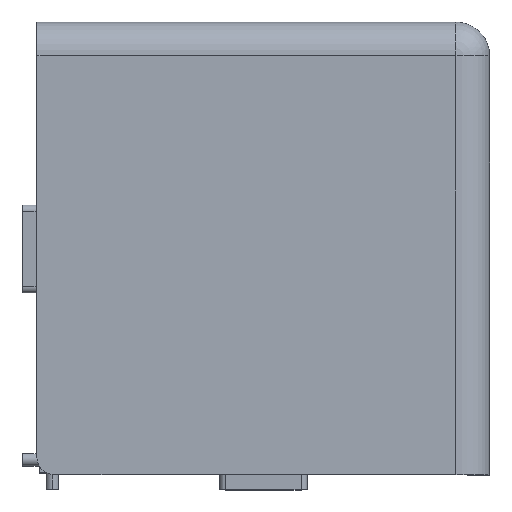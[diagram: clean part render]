
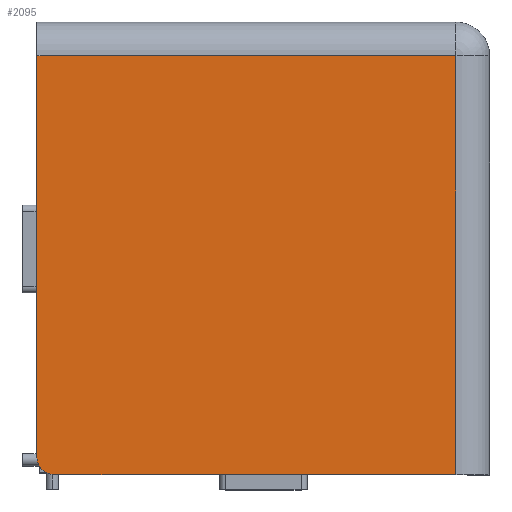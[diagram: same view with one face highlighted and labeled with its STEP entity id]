
A CAD part, top view. The second image highlights one B-rep face of the part: STEP entity #2095.
In plain terms, the highlighted planar face has unit normal (0, 0, 1) as drawn and (0, 1, 0) by its records, which use the part's own axes.
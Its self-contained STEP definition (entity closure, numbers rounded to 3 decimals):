
#37 = ORIENTED_EDGE ( 'NONE', *, *, #810, .T. ) ;
#49 = CARTESIAN_POINT ( 'NONE',  ( 3., 40.2, 0. ) ) ;
#218 = VERTEX_POINT ( 'NONE', #10406 ) ;
#601 = ORIENTED_EDGE ( 'NONE', *, *, #3761, .T. ) ;
#664 = CIRCLE ( 'NONE', #4192, 1.5 ) ;
#751 = EDGE_LOOP ( 'NONE', ( #8826, #601, #4396, #37, #6130 ) ) ;
#810 = EDGE_CURVE ( 'NONE', #218, #4380, #10902, .T. ) ;
#1133 = CARTESIAN_POINT ( 'NONE',  ( 3., 40.2, -37.2 ) ) ;
#1829 = VERTEX_POINT ( 'NONE', #6396 ) ;
#2077 = PLANE ( 'NONE',  #2864 ) ;
#2095 = ADVANCED_FACE ( 'NONE', ( #6660 ), #2077, .F. ) ;
#2129 = CARTESIAN_POINT ( 'NONE',  ( 40.2, 40.2, -40.2 ) ) ;
#2862 = CARTESIAN_POINT ( 'NONE',  ( 0., 40.2, -37.2 ) ) ;
#2864 = AXIS2_PLACEMENT_3D ( 'NONE', #7524, #4806, #9040 ) ;
#3046 = VERTEX_POINT ( 'NONE', #49 ) ;
#3460 = LINE ( 'NONE', #4451, #11146 ) ;
#3665 = DIRECTION ( 'NONE',  ( -1., 0., 0. ) ) ;
#3677 = EDGE_CURVE ( 'NONE', #1829, #218, #5625, .T. ) ;
#3761 = EDGE_CURVE ( 'NONE', #8027, #1829, #664, .T. ) ;
#4192 = AXIS2_PLACEMENT_3D ( 'NONE', #8286, #9205, #8172 ) ;
#4380 = VERTEX_POINT ( 'NONE', #1133 ) ;
#4396 = ORIENTED_EDGE ( 'NONE', *, *, #3677, .T. ) ;
#4451 = CARTESIAN_POINT ( 'NONE',  ( 3., 40.2, 0. ) ) ;
#4806 = DIRECTION ( 'NONE',  ( 0., -1., 0. ) ) ;
#5160 = EDGE_CURVE ( 'NONE', #4380, #3046, #3460, .T. ) ;
#5469 = CARTESIAN_POINT ( 'NONE',  ( 2., 40.2, 0. ) ) ;
#5625 = LINE ( 'NONE', #2129, #7914 ) ;
#6130 = ORIENTED_EDGE ( 'NONE', *, *, #5160, .T. ) ;
#6370 = VECTOR ( 'NONE', #7371, 1000. ) ;
#6396 = CARTESIAN_POINT ( 'NONE',  ( 40.2, 40.2, -1.5 ) ) ;
#6660 = FACE_OUTER_BOUND ( 'NONE', #751, .T. ) ;
#7371 = DIRECTION ( 'NONE',  ( 1., 0., 0. ) ) ;
#7524 = CARTESIAN_POINT ( 'NONE',  ( 0., 40.2, 0. ) ) ;
#7914 = VECTOR ( 'NONE', #10018, 1000. ) ;
#7934 = DIRECTION ( 'NONE',  ( 0., 0., 1. ) ) ;
#8027 = VERTEX_POINT ( 'NONE', #9416 ) ;
#8172 = DIRECTION ( 'NONE',  ( 0., 0., -1. ) ) ;
#8286 = CARTESIAN_POINT ( 'NONE',  ( 38.7, 40.2, -1.5 ) ) ;
#8810 = VECTOR ( 'NONE', #3665, 1000. ) ;
#8826 = ORIENTED_EDGE ( 'NONE', *, *, #9406, .T. ) ;
#9040 = DIRECTION ( 'NONE',  ( 0., 0., -1. ) ) ;
#9205 = DIRECTION ( 'NONE',  ( 0., 1., 0. ) ) ;
#9406 = EDGE_CURVE ( 'NONE', #3046, #8027, #9977, .T. ) ;
#9416 = CARTESIAN_POINT ( 'NONE',  ( 38.7, 40.2, 0. ) ) ;
#9977 = LINE ( 'NONE', #5469, #6370 ) ;
#10018 = DIRECTION ( 'NONE',  ( 0., 0., -1. ) ) ;
#10406 = CARTESIAN_POINT ( 'NONE',  ( 40.2, 40.2, -37.2 ) ) ;
#10902 = LINE ( 'NONE', #2862, #8810 ) ;
#11146 = VECTOR ( 'NONE', #7934, 1000. ) ;
